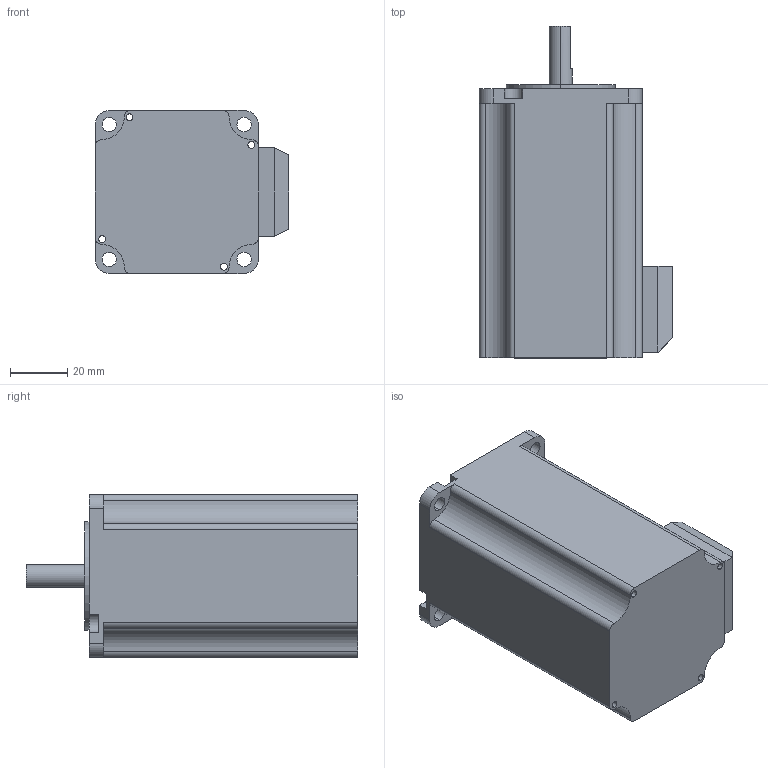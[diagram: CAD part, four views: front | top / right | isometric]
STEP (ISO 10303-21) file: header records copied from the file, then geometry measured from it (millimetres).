
FILE_DESCRIPTION (( 'STEP AP214' ), '1' );
FILE_NAME ('57A2ECZ（57HSM76-D0822-008）.STEP', '2020-04-07T11:46:05', ( 'wimxt.com' ), ( 'wimxt.com' ), 'SwSTEP 2.0', 'SolidWorks 2014', '' );
FILE_SCHEMA (( 'AUTOMOTIVE_DESIGN' ));
Length unit declared in the file: millimetre
Products named in the file (1): 57A2ECZ（57HSM76-D0822-008）
Bounding box: 67.7 x 116 x 57 mm (x, y, z)
Volume: 280811.6 mm3; surface area: 31007.5 mm2
Topology: 1 solids, 1 shells, 81 faces, 222 edges, 148 vertices
Faces by surface type: cylinder 45, plane 36
Entity records: 2674 total; most frequent: DIRECTION 478, CARTESIAN_POINT 452, ORIENTED_EDGE 444, EDGE_CURVE 222, AXIS2_PLACEMENT_3D 174, VERTEX_POINT 148, VECTOR 130, LINE 130
